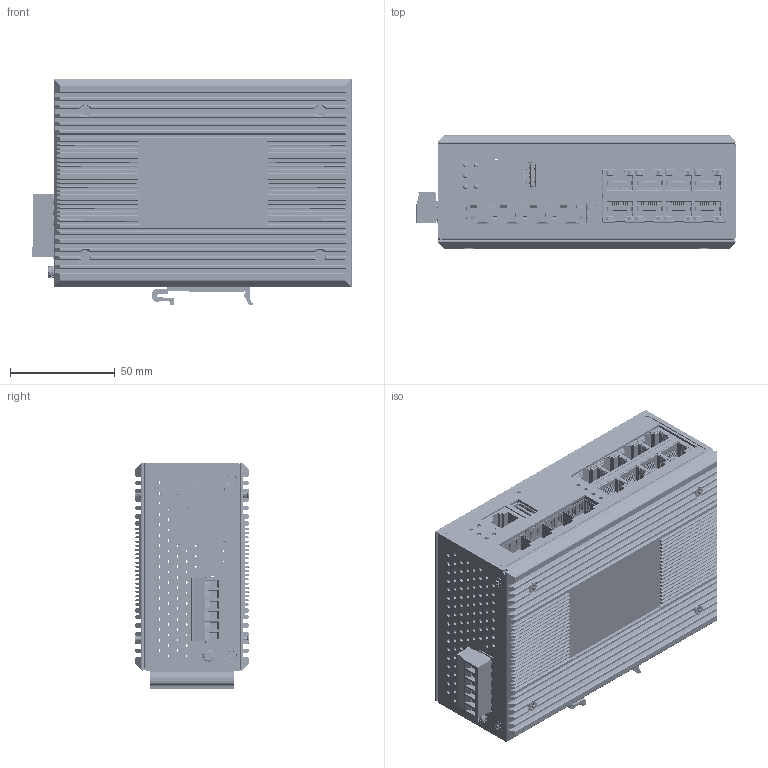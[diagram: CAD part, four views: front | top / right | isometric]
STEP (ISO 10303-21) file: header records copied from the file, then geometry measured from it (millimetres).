
FILE_DESCRIPTION((''),'2;1');
FILE_NAME('PG5-1204-SFP_ASM','2018-10-23T',('Chialu Chang'),(''),'PRO/ENGINEER BY PARAMETRIC TECHNOLOGY CORPORATION, 2009440','PRO/ENGINEER BY PARAMETRIC TECHNOLOGY CORPORATION, 2009440','');
FILE_SCHEMA(('CONFIG_CONTROL_DESIGN'));
Products named in the file (182): BOTTOM_CASE_PG5-1204-1SFP_AN_3; STENT_PG6-1202-10G-SFP_ANY_1; PG5-1202-SFP_TOP-CASE_1; LEONTON_FIN_BOTTOM_PG6-1202-10G; LEONTON_FIN_TOP_PG6-1202-10G-SF; M3_SCREW_FOR_GRN_1604_ANY_1; SCREW_M3X4_F_1; DIN_RAIL_40_PG6-1202-10G-SFP_AN; 1X4_SFP___-1_ANY_1; PRODUCT_46875_ANY_1; ___-1_ANY_1; PRODUCT_46773-1_ANY_1; 1X4_SFP_SHIELDING_ASSEMBLY_1106_ASM; PRODUCT_46739_ANY_1; 11268010712104_1X4-SFP_ASM_1_ASM; EMSTBA_2_5-6-G-168220_1; EMSTBA_2_5-6-G-173270_ASM_1_ASM; 1899883_01_ASM_1_ASM; RMX-P110_RM4_ANY_1; ___J5-362632_1; ___J4-362743_1; ___J3-362811_1; ___J2-362927_1; ___J1-363077_1; RN1-P110_ANY_ASM_1_ASM; RM1-P160_ANY_1; RM1-P110-LAST_ANY_1; RM1-C210____T_P___A_ANY_1; RM1-C220____T_U_____P___A_ANY_1; RM1-C120_LONG____S_ANY_1; RM1-C120_LONG____S-1_ANY_1; RM1-C120_LONG____S-2_ANY_1; RM1-C120_LONG____S-3_ANY_1; RM1-C120_LONG____S-4_ANY_1; RM1-C120_SHORT____S_ANY_1; RM1-C120_SHORT____S-1_ANY_1; RM1-C120_SHORT____S-2_ANY_1; RM1-C120_SHORT____S-3_ANY_1; RM1-C120_SHORT____S-4_ANY_1; RM1-C120_LONG____S-5_ANY_1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
Assembly tree (236 placements, depth 5):
  PG5-1204-SFP_ASM
    BOTTOM_CASE_PG5-1204-1SFP_AN_3
    STENT_PG6-1202-10G-SFP_ANY_1
    PG5-1202-SFP_TOP-CASE_1
    LEONTON_FIN_BOTTOM_PG6-1202-10G
    LEONTON_FIN_TOP_PG6-1202-10G-SF
    M3_SCREW_FOR_GRN_1604_ANY_1
    SCREW_M3X4_F_1  x18
    DIN_RAIL_40_PG6-1202-10G-SFP_AN
    SWITCH_PCB_PG5-1204-SFP_ASM_2_ASM
      11268010712104_1X4-SFP_ASM_1_ASM
        1X4_SFP_SHIELDING_ASSEMBLY_1106_ASM
          1X4_SFP___-1_ANY_1
          PRODUCT_46875_ANY_1
          ___-1_ANY_1  x2
          PRODUCT_46773-1_ANY_1
        PRODUCT_46739_ANY_1
      1899883_01_ASM_1_ASM
        EMSTBA_2_5-6-G-173270_ASM_1_ASM
          EMSTBA_2_5-6-G-168220_1
      11264112222712_RN4-16N0-12PIN_A_ASM
        RMX-P110_RM4_ANY_1
        RN1-P110_ANY_ASM_1_ASM
          ___J5-362632_1
          ___J4-362743_1
          ___J3-362811_1
          ___J2-362927_1
          ___J1-363077_1
        RM1-P160_ANY_1  x16
        RM1-P110-LAST_ANY_1  x4
        RM1-C210____T_P___A_ANY_1  x4
        RM1-C220____T_U_____P___A_ANY_1
        RM1-C120_LONG____S_ANY_1
        RM1-C120_LONG____S-1_ANY_1
        RM1-C120_LONG____S-2_ANY_1
        RM1-C120_LONG____S-3_ANY_1
        RM1-C120_LONG____S-4_ANY_1
        RM1-C120_SHORT____S_ANY_1
        RM1-C120_SHORT____S-1_ANY_1
        RM1-C120_SHORT____S-2_ANY_1
        RM1-C120_SHORT____S-3_ANY_1
        RM1-C120_SHORT____S-4_ANY_1
        RM1-C120_LONG____S-5_ANY_1
        RM1-C120_LONG____S-6_ANY_1
        RM1-C120_LONG____S-7_ANY_1
        RM1-C120_LONG____S-8_ANY_1
        RM1-C120_LONG____S-9_ANY_1
        RM1-C120_SHORT____S-5_ANY_1
        RM1-C120_SHORT____S-6_ANY_1
        RM1-C120_SHORT____S-7_ANY_1
        RM1-C120_SHORT____S-8_ANY_1
        RM1-C120_SHORT____S-9_ANY_1
        RN1-P130_A_TYPE_RNX__ANY_1
        RU1-C120_RNX_ANY_1
        RU1-C120_RNX-1_ANY_1
        RU1-C130_RNX_ANY_1
        RU1-C130_RNX-1_ANY_1
        RM1-C130-SW_ANY_1
        RM1-C130-SW-1_ANY_1
        RM1-C130-SW-2_ANY_1
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Bounding box: 152.12 x 54 x 107.8 mm (x, y, z)
Volume: 162288.2 mm3; surface area: 261104 mm2
Topology: 220 solids, 221 shells, 16011 faces, 44764 edges, 28987 vertices
Faces by surface type: plane 11823, cylinder 3456, torus 188, bspline 183, cone 145, sphere 112, extrusion 104
Entity records: 418062 total; most frequent: CARTESIAN_POINT 89569, ORIENTED_EDGE 69290, DIRECTION 65093, EDGE_CURVE 34663, VECTOR 27161, LINE 27069, VERTEX_POINT 22423, AXIS2_PLACEMENT_3D 18966
